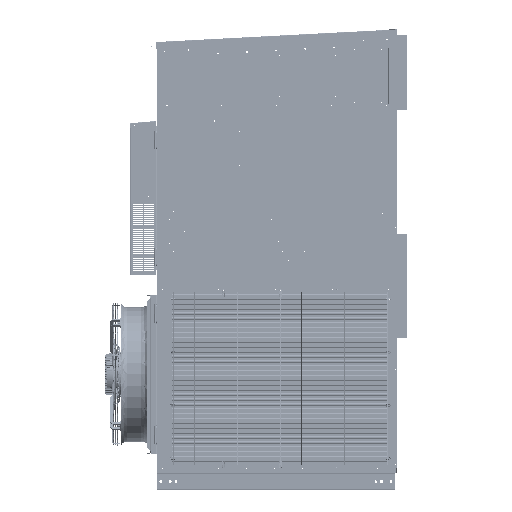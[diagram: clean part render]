
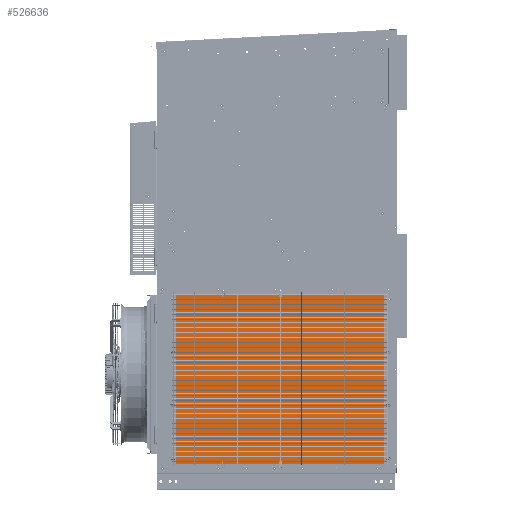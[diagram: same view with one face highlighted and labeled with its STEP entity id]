
A CAD part, left-side view. The second image highlights one B-rep face of the part: STEP entity #526636.
In plain terms, the highlighted planar face has unit normal (-1, 0, 0) as drawn and (0, 0, 1) by its records, which use the part's own axes.
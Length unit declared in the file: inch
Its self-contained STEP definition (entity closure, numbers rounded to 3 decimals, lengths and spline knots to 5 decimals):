
#7152 = EDGE_CURVE ( 'NONE', #238767, #376772, #712334, .T. ) ;
#21049 = ORIENTED_EDGE ( 'NONE', *, *, #149133, .T. ) ;
#25581 = EDGE_CURVE ( 'NONE', #376772, #932464, #308463, .T. ) ;
#45282 = VECTOR ( 'NONE', #866471, 39.37008 ) ;
#70435 = EDGE_CURVE ( 'NONE', #932464, #361683, #754772, .T. ) ;
#133434 = CARTESIAN_POINT ( 'NONE',  ( 36., -44., 0. ) ) ;
#149133 = EDGE_CURVE ( 'NONE', #361683, #238767, #267876, .T. ) ;
#238180 = CARTESIAN_POINT ( 'NONE',  ( 0., -44., 0. ) ) ;
#238767 = VERTEX_POINT ( 'NONE', #238180 ) ;
#250285 = DIRECTION ( 'NONE',  ( 1., 0., 0. ) ) ;
#261763 = ORIENTED_EDGE ( 'NONE', *, *, #70435, .T. ) ;
#267876 = LINE ( 'NONE', #752058, #444554 ) ;
#308463 = LINE ( 'NONE', #962578, #510307 ) ;
#350415 = DIRECTION ( 'NONE',  ( -1., 0., 0. ) ) ;
#361683 = VERTEX_POINT ( 'NONE', #515105 ) ;
#376772 = VERTEX_POINT ( 'NONE', #133434 ) ;
#388552 = VECTOR ( 'NONE', #350415, 39.37008 ) ;
#418480 = ORIENTED_EDGE ( 'NONE', *, *, #25581, .T. ) ;
#444554 = VECTOR ( 'NONE', #608133, 39.37008 ) ;
#462722 = DIRECTION ( 'NONE',  ( 0., 1., 0. ) ) ;
#489783 = CARTESIAN_POINT ( 'NONE',  ( 36., -22., 0. ) ) ;
#510307 = VECTOR ( 'NONE', #462722, 39.37008 ) ;
#515105 = CARTESIAN_POINT ( 'NONE',  ( 0., 0., 0. ) ) ;
#519453 = ORIENTED_EDGE ( 'NONE', *, *, #7152, .T. ) ;
#526636 = ADVANCED_FACE ( 'NONE', ( #729290 ), #979065, .T. ) ;
#540252 = CARTESIAN_POINT ( 'NONE',  ( 36., 0., 0. ) ) ;
#600693 = AXIS2_PLACEMENT_3D ( 'NONE', #489783, #814159, #250285 ) ;
#608133 = DIRECTION ( 'NONE',  ( 0., -1., 0. ) ) ;
#712334 = LINE ( 'NONE', #802371, #45282 ) ;
#729290 = FACE_OUTER_BOUND ( 'NONE', #860476, .T. ) ;
#752058 = CARTESIAN_POINT ( 'NONE',  ( 0., -22., 0. ) ) ;
#754772 = LINE ( 'NONE', #540252, #388552 ) ;
#802371 = CARTESIAN_POINT ( 'NONE',  ( 36., -44., 0. ) ) ;
#814159 = DIRECTION ( 'NONE',  ( 0., 0., 1. ) ) ;
#860476 = EDGE_LOOP ( 'NONE', ( #418480, #261763, #21049, #519453 ) ) ;
#866471 = DIRECTION ( 'NONE',  ( 1., 0., 0. ) ) ;
#932464 = VERTEX_POINT ( 'NONE', #933814 ) ;
#933814 = CARTESIAN_POINT ( 'NONE',  ( 36., 0., 0. ) ) ;
#962578 = CARTESIAN_POINT ( 'NONE',  ( 36., -22., 0. ) ) ;
#979065 = PLANE ( 'NONE',  #600693 ) ;
